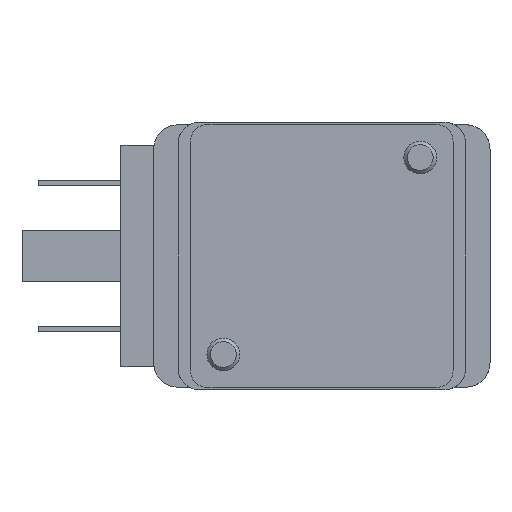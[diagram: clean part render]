
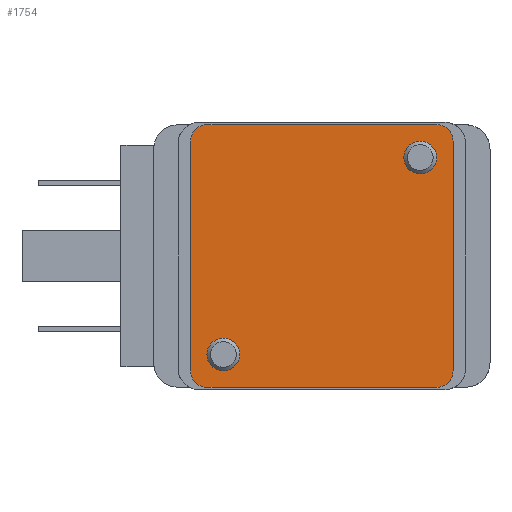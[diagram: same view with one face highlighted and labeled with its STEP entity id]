
A CAD part, front view. The second image highlights one B-rep face of the part: STEP entity #1754.
In plain terms, the highlighted planar face has unit normal (0, -1, 0).
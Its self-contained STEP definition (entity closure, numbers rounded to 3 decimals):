
#77=CIRCLE('',#1866,2.);
#78=CIRCLE('',#1867,2.);
#79=CIRCLE('',#1868,2.);
#80=CIRCLE('',#1869,2.);
#81=CIRCLE('',#1870,2.);
#82=CIRCLE('',#1871,2.);
#371=ORIENTED_EDGE('',*,*,#569,.F.);
#372=ORIENTED_EDGE('',*,*,#570,.F.);
#373=ORIENTED_EDGE('',*,*,#571,.F.);
#374=ORIENTED_EDGE('',*,*,#572,.F.);
#375=ORIENTED_EDGE('',*,*,#573,.F.);
#376=ORIENTED_EDGE('',*,*,#574,.F.);
#377=ORIENTED_EDGE('',*,*,#575,.F.);
#378=ORIENTED_EDGE('',*,*,#576,.F.);
#379=ORIENTED_EDGE('',*,*,#577,.F.);
#380=ORIENTED_EDGE('',*,*,#578,.F.);
#569=EDGE_CURVE('',#690,#690,#77,.F.);
#570=EDGE_CURVE('',#691,#691,#78,.F.);
#571=EDGE_CURVE('',#692,#693,#79,.T.);
#572=EDGE_CURVE('',#694,#692,#817,.T.);
#573=EDGE_CURVE('',#695,#694,#80,.T.);
#574=EDGE_CURVE('',#696,#695,#818,.T.);
#575=EDGE_CURVE('',#697,#696,#81,.T.);
#576=EDGE_CURVE('',#698,#697,#819,.T.);
#577=EDGE_CURVE('',#699,#698,#82,.T.);
#578=EDGE_CURVE('',#693,#699,#820,.T.);
#690=VERTEX_POINT('',#2555);
#691=VERTEX_POINT('',#2557);
#692=VERTEX_POINT('',#2559);
#693=VERTEX_POINT('',#2560);
#694=VERTEX_POINT('',#2562);
#695=VERTEX_POINT('',#2564);
#696=VERTEX_POINT('',#2566);
#697=VERTEX_POINT('',#2568);
#698=VERTEX_POINT('',#2570);
#699=VERTEX_POINT('',#2572);
#817=LINE('',#2561,#942);
#818=LINE('',#2565,#943);
#819=LINE('',#2569,#944);
#820=LINE('',#2573,#945);
#942=VECTOR('',#2195,1000.);
#943=VECTOR('',#2198,1000.);
#944=VECTOR('',#2201,1000.);
#945=VECTOR('',#2204,1000.);
#1022=EDGE_LOOP('',(#371));
#1023=EDGE_LOOP('',(#372));
#1024=EDGE_LOOP('',(#373,#374,#375,#376,#377,#378,#379,#380));
#1111=FACE_BOUND('',#1022,.T.);
#1112=FACE_BOUND('',#1023,.T.);
#1113=FACE_BOUND('',#1024,.T.);
#1176=PLANE('',#1865);
#1754=ADVANCED_FACE('',(#1111,#1112,#1113),#1176,.F.);
#1865=AXIS2_PLACEMENT_3D('',#2553,#2187,#2188);
#1866=AXIS2_PLACEMENT_3D('',#2554,#2189,#2190);
#1867=AXIS2_PLACEMENT_3D('',#2556,#2191,#2192);
#1868=AXIS2_PLACEMENT_3D('',#2558,#2193,#2194);
#1869=AXIS2_PLACEMENT_3D('',#2563,#2196,#2197);
#1870=AXIS2_PLACEMENT_3D('',#2567,#2199,#2200);
#1871=AXIS2_PLACEMENT_3D('',#2571,#2202,#2203);
#2187=DIRECTION('',(0.,1.,0.));
#2188=DIRECTION('',(0.,0.,1.));
#2189=DIRECTION('',(0.,1.,0.));
#2190=DIRECTION('',(0.,0.,1.));
#2191=DIRECTION('',(0.,1.,0.));
#2192=DIRECTION('',(0.,0.,1.));
#2193=DIRECTION('',(0.,1.,0.));
#2194=DIRECTION('',(1.,0.,0.));
#2195=DIRECTION('',(-1.,0.,0.));
#2196=DIRECTION('',(0.,1.,0.));
#2197=DIRECTION('',(1.,0.,0.));
#2198=DIRECTION('',(0.,0.,-1.));
#2199=DIRECTION('',(0.,1.,0.));
#2200=DIRECTION('',(1.,0.,0.));
#2201=DIRECTION('',(1.,0.,0.));
#2202=DIRECTION('',(0.,1.,0.));
#2203=DIRECTION('',(1.,0.,0.));
#2204=DIRECTION('',(0.,0.,1.));
#2553=CARTESIAN_POINT('',(6.5,-14.3,-30.));
#2554=CARTESIAN_POINT('',(8.5,-14.3,-28.));
#2555=CARTESIAN_POINT('',(8.5,-14.3,-26.));
#2556=CARTESIAN_POINT('',(32.5,-14.3,-4.));
#2557=CARTESIAN_POINT('',(32.5,-14.3,-2.));
#2558=CARTESIAN_POINT('',(6.5,-14.3,-30.));
#2559=CARTESIAN_POINT('',(6.5,-14.3,-32.));
#2560=CARTESIAN_POINT('',(4.5,-14.3,-30.));
#2561=CARTESIAN_POINT('',(34.5,-14.3,-32.));
#2562=CARTESIAN_POINT('',(34.5,-14.3,-32.));
#2563=CARTESIAN_POINT('',(34.5,-14.3,-30.));
#2564=CARTESIAN_POINT('',(36.5,-14.3,-30.));
#2565=CARTESIAN_POINT('',(36.5,-14.3,-2.));
#2566=CARTESIAN_POINT('',(36.5,-14.3,-2.));
#2567=CARTESIAN_POINT('',(34.5,-14.3,-2.));
#2568=CARTESIAN_POINT('',(34.5,-14.3,0.));
#2569=CARTESIAN_POINT('',(6.5,-14.3,0.));
#2570=CARTESIAN_POINT('',(6.5,-14.3,0.));
#2571=CARTESIAN_POINT('',(6.5,-14.3,-2.));
#2572=CARTESIAN_POINT('',(4.5,-14.3,-2.));
#2573=CARTESIAN_POINT('',(4.5,-14.3,-30.));
